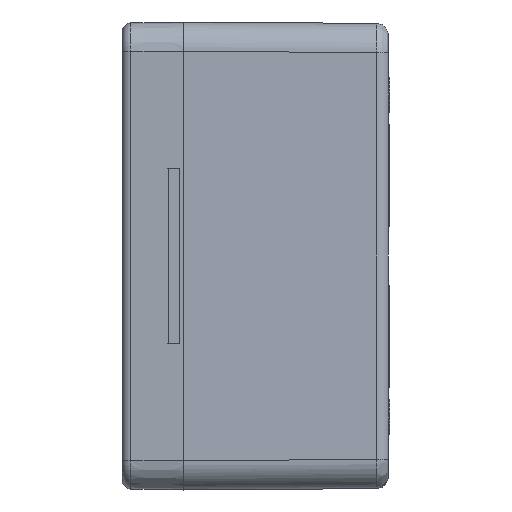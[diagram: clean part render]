
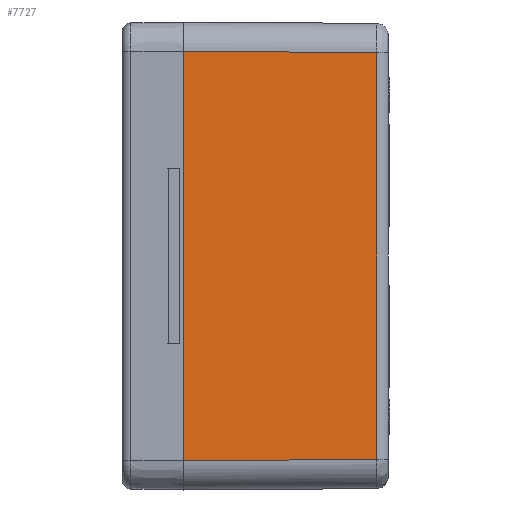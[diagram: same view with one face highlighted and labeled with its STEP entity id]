
A CAD part, left-side view. The second image highlights one B-rep face of the part: STEP entity #7727.
In plain terms, the highlighted planar face has unit normal (-1, -0.007, 0).
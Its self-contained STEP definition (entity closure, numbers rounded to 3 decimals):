
#621=CARTESIAN_POINT('',(-280.,0.,-70.));
#669=CARTESIAN_POINT('',(-280.,0.,70.));
#680=DIRECTION('',(0.,0.,-1.));
#681=VECTOR('',#680,140.001);
#682=CARTESIAN_POINT('',(-280.,0.,70.));
#683=LINE('',#682,#681);
#3362=DIRECTION('',(0.,0.,1.));
#3363=VECTOR('',#3362,139.057);
#3364=CARTESIAN_POINT('',(-279.528,-66.029,
-69.529));
#3365=LINE('',#3364,#3363);
#3411=DIRECTION('',(-0.007,1.,-0.007));
#3412=VECTOR('',#3411,66.032);
#3413=CARTESIAN_POINT('',(-279.528,-66.029,
-69.529));
#3414=LINE('',#3413,#3412);
#3418=DIRECTION('',(-0.007,1.,0.007));
#3419=VECTOR('',#3418,66.032);
#3420=CARTESIAN_POINT('',(-279.528,-66.029,
69.529));
#3421=LINE('',#3420,#3419);
#3425=CARTESIAN_POINT('',(-279.528,-66.029,
-69.529));
#3532=CARTESIAN_POINT('',(-279.528,-66.029,
69.529));
#4079=VERTEX_POINT('',#621);
#4084=VERTEX_POINT('',#669);
#4088=VERTEX_POINT('',#3425);
#4105=VERTEX_POINT('',#3532);
#7714=CARTESIAN_POINT('',(-279.75,-35.,0.));
#7715=DIRECTION('',(1.,0.007,0.));
#7716=DIRECTION('',(-0.007,1.,0.));
#7717=AXIS2_PLACEMENT_3D('',#7714,#7715,#7716);
#7718=PLANE('',#7717);
#7719=ORIENTED_EDGE('',*,*,#7674,.F.);
#7721=ORIENTED_EDGE('',*,*,#7720,.T.);
#7722=ORIENTED_EDGE('',*,*,#4633,.F.);
#7724=ORIENTED_EDGE('',*,*,#7723,.F.);
#7725=EDGE_LOOP('',(#7719,#7721,#7722,#7724));
#7726=FACE_OUTER_BOUND('',#7725,.F.);
#4633=EDGE_CURVE('',#4084,#4079,#683,.T.);
#7674=EDGE_CURVE('',#4088,#4105,#3365,.T.);
#7720=EDGE_CURVE('',#4088,#4079,#3414,.T.);
#7723=EDGE_CURVE('',#4105,#4084,#3421,.T.);
#7727=ADVANCED_FACE('',(#7726),#7718,.F.);
